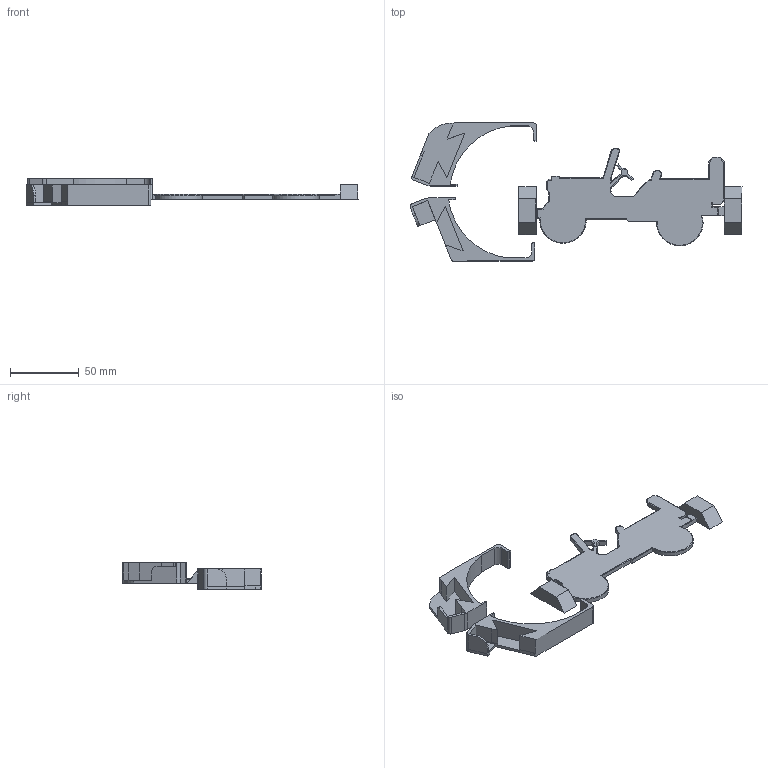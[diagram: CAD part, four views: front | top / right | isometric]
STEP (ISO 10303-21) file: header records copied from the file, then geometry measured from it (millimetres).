
FILE_DESCRIPTION(/* description */ (''),/* implementation_level */ '2;1');
FILE_NAME(/* name */ 'Jeep_Main_Plate_V3_v5 v6.step',/* time_stamp */ '2023-04-16T18:03:00-04:00',/* author */ (''),/* organization */ (''),/* preprocessor_version */ 'ST-DEVELOPER v19.2',/* originating_system */ 'Autodesk Translation Framework v12.4.0.73',/* authorisation */ '');
FILE_SCHEMA (('AUTOMOTIVE_DESIGN { 1 0 10303 214 3 1 1 }'));
Length unit declared in the file: millimetre
Products named in the file (3): Jeep_Main_Plate_V3_v5; Jeep_Right_Side_v2; Jeep_Left_Side_v8
Assembly tree (2 placements, depth 2):
  Jeep_Main_Plate_V3_v5
    Jeep_Right_Side_v2
    Jeep_Left_Side_v8
Bounding box: 242.32 x 100.73 x 19.62 mm (x, y, z)
Volume: 49414.1 mm3; surface area: 30554.5 mm2
Topology: 3 solids, 3 shells, 225 faces, 596 edges, 372 vertices
Faces by surface type: plane 137, cylinder 79, torus 5, bspline 4
Entity records: 7303 total; most frequent: CARTESIAN_POINT 1626, ORIENTED_EDGE 1192, DIRECTION 1138, EDGE_CURVE 596, LINE 468, VECTOR 468, VERTEX_POINT 372, AXIS2_PLACEMENT_3D 335
